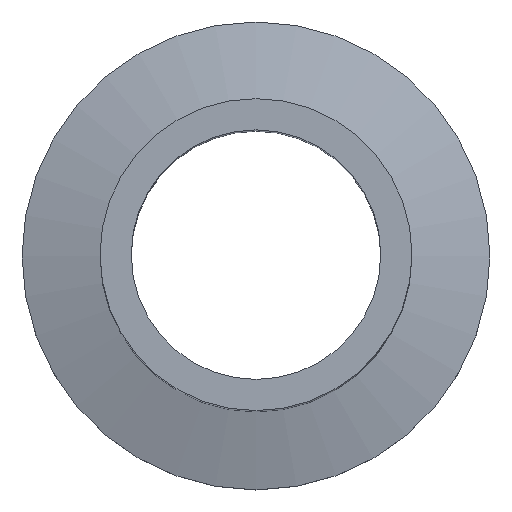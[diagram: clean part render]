
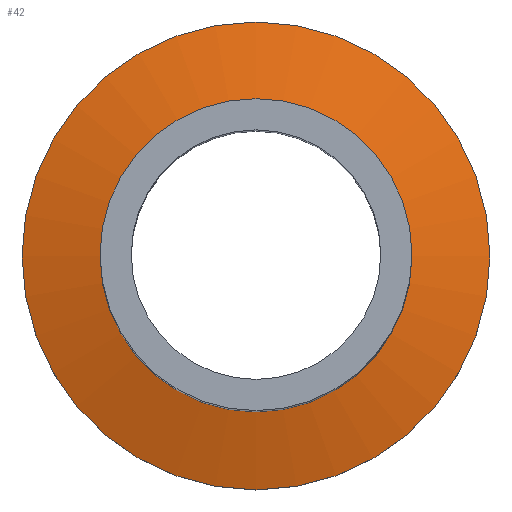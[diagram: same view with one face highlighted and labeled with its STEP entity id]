
A CAD part, top view. The second image highlights one B-rep face of the part: STEP entity #42.
In plain terms, the highlighted conical face has half-angle 75 degrees and reference radius 15 mm.
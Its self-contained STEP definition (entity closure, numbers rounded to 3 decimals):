
#42 = ADVANCED_FACE( '', ( #85, #86 ), #87, .T. );
#85 = FACE_BOUND( '', #124, .T. );
#86 = FACE_OUTER_BOUND( '', #125, .T. );
#87 = CONICAL_SURFACE( '', #126, 15., 1.309 );
#124 = EDGE_LOOP( '', ( #167 ) );
#125 = EDGE_LOOP( '', ( #168 ) );
#126 = AXIS2_PLACEMENT_3D( '', #169, #170, #171 );
#167 = ORIENTED_EDGE( '', *, *, #186, .F. );
#168 = ORIENTED_EDGE( '', *, *, #190, .T. );
#169 = CARTESIAN_POINT( '', ( 0., 0., 3. ) );
#170 = DIRECTION( '', ( 0., 0., -1. ) );
#171 = DIRECTION( '', ( -1., 0., 0. ) );
#186 = EDGE_CURVE( '', #203, #203, #204, .T. );
#190 = EDGE_CURVE( '', #209, #209, #210, .T. );
#203 = VERTEX_POINT( '', #227 );
#204 = CIRCLE( '', #228, 10. );
#209 = VERTEX_POINT( '', #233 );
#210 = CIRCLE( '', #234, 15. );
#227 = CARTESIAN_POINT( '', ( 10., 0., 4.34 ) );
#228 = AXIS2_PLACEMENT_3D( '', #251, #252, #253 );
#233 = CARTESIAN_POINT( '', ( 15., 0., 3. ) );
#234 = AXIS2_PLACEMENT_3D( '', #257, #258, #259 );
#251 = CARTESIAN_POINT( '', ( 0., 0., 4.34 ) );
#252 = DIRECTION( '', ( 0., 0., 1. ) );
#253 = DIRECTION( '', ( 1., 0., 0. ) );
#257 = CARTESIAN_POINT( '', ( 0., 0., 3. ) );
#258 = DIRECTION( '', ( 0., 0., 1. ) );
#259 = DIRECTION( '', ( 1., 0., 0. ) );
